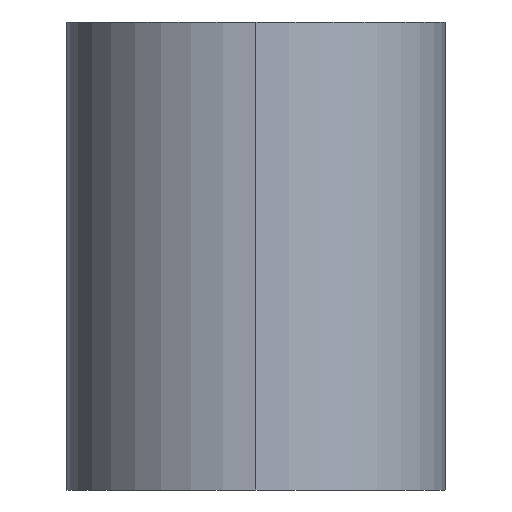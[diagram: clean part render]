
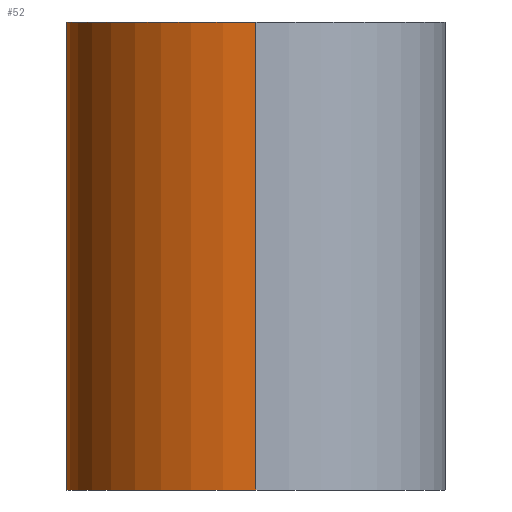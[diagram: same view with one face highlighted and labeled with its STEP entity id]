
A CAD part, left-side view. The second image highlights one B-rep face of the part: STEP entity #52.
In plain terms, the highlighted cylindrical face has radius 5.25 mm (diameter 10.5 mm), a partial arc.
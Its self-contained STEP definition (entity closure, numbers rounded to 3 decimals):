
#52=ADVANCED_FACE('',(#67),#68,.T.);
#67=FACE_OUTER_BOUND('',#92,.T.);
#68=CYLINDRICAL_SURFACE('',#93,5.25);
#92=EDGE_LOOP('',(#122,#123,#124,#125));
#93=AXIS2_PLACEMENT_3D('',#126,#127,#128);
#122=ORIENTED_EDGE('',*,*,#216,.F.);
#123=ORIENTED_EDGE('',*,*,#217,.F.);
#124=ORIENTED_EDGE('',*,*,#218,.F.);
#125=ORIENTED_EDGE('',*,*,#219,.T.);
#126=CARTESIAN_POINT('',(141.345,107.404,-13.0));
#127=DIRECTION('',(0.0,0.0,-1.0));
#128=DIRECTION('',(1.0,0.0,0.0));
#216=EDGE_CURVE('',#250,#251,#252,.T.);
#217=EDGE_CURVE('',#253,#250,#254,.T.);
#218=EDGE_CURVE('',#255,#253,#256,.T.);
#219=EDGE_CURVE('',#255,#251,#257,.T.);
#250=VERTEX_POINT('',#302);
#251=VERTEX_POINT('',#303);
#252=LINE('',#304,#305);
#253=VERTEX_POINT('',#306);
#254=CIRCLE('',#307,5.25);
#255=VERTEX_POINT('',#308);
#256=LINE('',#309,#310);
#257=CIRCLE('',#311,5.25);
#302=CARTESIAN_POINT('',(136.095,107.404,0.0));
#303=CARTESIAN_POINT('',(136.095,107.404,-13.0));
#304=CARTESIAN_POINT('',(136.095,107.404,-13.0));
#305=VECTOR('',#368,1.0);
#306=CARTESIAN_POINT('',(141.345,112.654,0.0));
#307=AXIS2_PLACEMENT_3D('',#369,#370,#371);
#308=CARTESIAN_POINT('',(141.345,112.654,-13.0));
#309=CARTESIAN_POINT('',(141.345,112.654,-13.0));
#310=VECTOR('',#372,1.0);
#311=AXIS2_PLACEMENT_3D('',#373,#374,#375);
#368=DIRECTION('',(0.0,0.0,-1.0));
#369=CARTESIAN_POINT('',(141.345,107.404,0.0));
#370=DIRECTION('',(0.0,0.0,1.0));
#371=DIRECTION('',(1.0,0.0,0.0));
#372=DIRECTION('',(0.0,0.0,1.0));
#373=CARTESIAN_POINT('',(141.345,107.404,-13.0));
#374=DIRECTION('',(0.0,0.0,1.0));
#375=DIRECTION('',(1.0,0.0,0.0));
